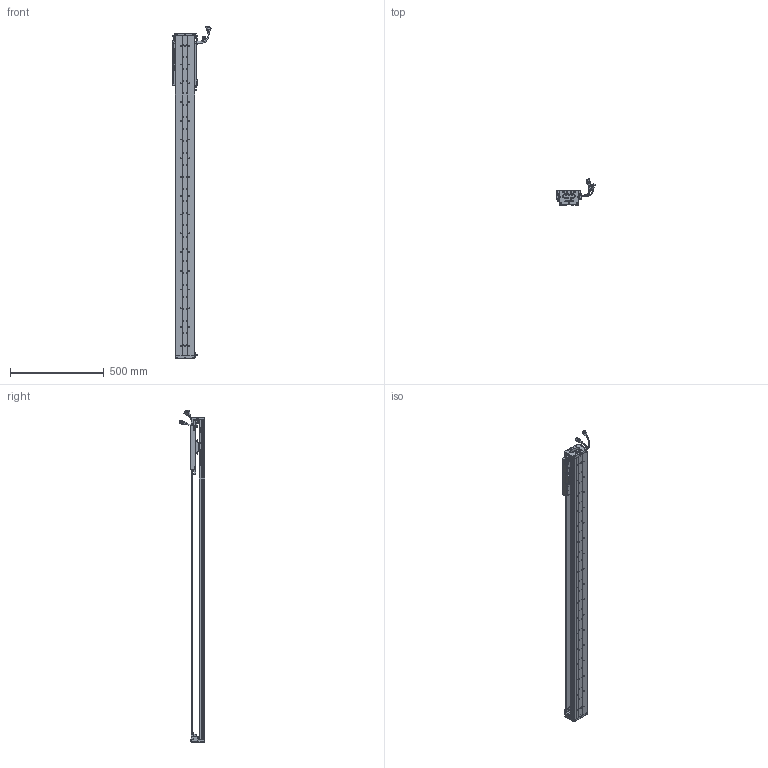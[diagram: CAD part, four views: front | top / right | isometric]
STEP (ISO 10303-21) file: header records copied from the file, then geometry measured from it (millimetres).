
FILE_DESCRIPTION (( 'STEP AP203' ), '1' );
FILE_NAME ('Z3-RY100D-1-L500-B-K.SLDASM_1400.step', '2021-05-17T02:50:49', ( '盈信电脑' ), ( '东莞市道滘镇水果街19号' ), 'SwSTEP 2.0', 'SolidWorks 2016', '' );
FILE_SCHEMA (( 'CONFIG_CONTROL_DESIGN' ));
Length unit declared in the file: millimetre
Products named in the file (36): Z-100詩湍傷裔啣; PBU_SHEET; SCALE-Part-1; SCALE; 140蚥薯蝶輸; LABEL; PSLH080_PSLF2; SEAL; 080黍杅芛假蚾釱21遴; Z3-RY100D-1-L500-B-K.SLDASM_1400; Z-RY100D詩湍奻揤裔; 100-Z-臏賑輸盄裔(21遴); HARNESS-Part-2; Z-RY100D詩湍狟揤裔; SCREW-M1.6-3; SHIELDPLATE; SCALE-Part-2; 140雄赽晤鎢ん堤盄; Z3-RY100铝滑块（21款）; SEAL-Part-1; LABEL-Part-1; HARNESS-Part-1; Z3-RY100-L500詩湍90mm遵_1400; COVER-Part-1; HARNESS; SCREW-M1.6; Z3-RY100D-500-倰第菁釱_1400; 榋妏寠巭燃_暯_M2_2; Z-RY100D覜茼んえ; SCREW-M1.6-1; SCREW-M1.6-2; SCREW-M1.7-1; 覜茼ん672; HOLDER0; SCREW-M1.7; COVER
Assembly tree (43 placements, depth 4):
  Z3-RY100D-1-L500-B-K.SLDASM_1400
    Z3-RY100D-500-倰第菁釱_1400
    Z3-RY100铝滑块（21款）
    PSLH080_PSLF2
      SCALE
        SCALE-Part-1
        SCALE-Part-2
      HARNESS
        HARNESS-Part-1
        HARNESS-Part-2
      LABEL
        LABEL-Part-1
      COVER
        COVER-Part-1
      SEAL
        SEAL-Part-1
      榋妏寠巭燃_暯_M2_2
      SHIELDPLATE
      SCREW-M1.7
      SCREW-M1.7-1
      PBU_SHEET
      SCREW-M1.6
      SCREW-M1.6-1
      SCREW-M1.6-2
      SCREW-M1.6-3
      HOLDER0
    080黍杅芛假蚾釱21遴
    Z-100詩湍傷裔啣  x2
    140蚥薯蝶輸  x2
    覜茼ん672  x3
    Z-RY100D覜茼んえ  x3
    100-Z-臏賑輸盄裔(21遴)
    140雄赽晤鎢ん堤盄
    Z3-RY100-L500詩湍90mm遵_1400
    Z-RY100D詩湍狟揤裔  x2
    Z-RY100D詩湍奻揤裔  x2
Bounding box: 205.83 x 136.11 x 1770.43 mm (x, y, z)
Volume: 3455630.6 mm3; surface area: 1342168.6 mm2
Topology: 38 solids, 38 shells, 2761 faces, 7375 edges, 4684 vertices
Faces by surface type: cylinder 1266, plane 1147, cone 226, torus 69, bspline 53
Entity records: 77209 total; most frequent: CARTESIAN_POINT 16225, DIRECTION 12329, ORIENTED_EDGE 11630, EDGE_CURVE 5815, AXIS2_PLACEMENT_3D 4580, VERTEX_POINT 3752, LINE 3169, VECTOR 3169
